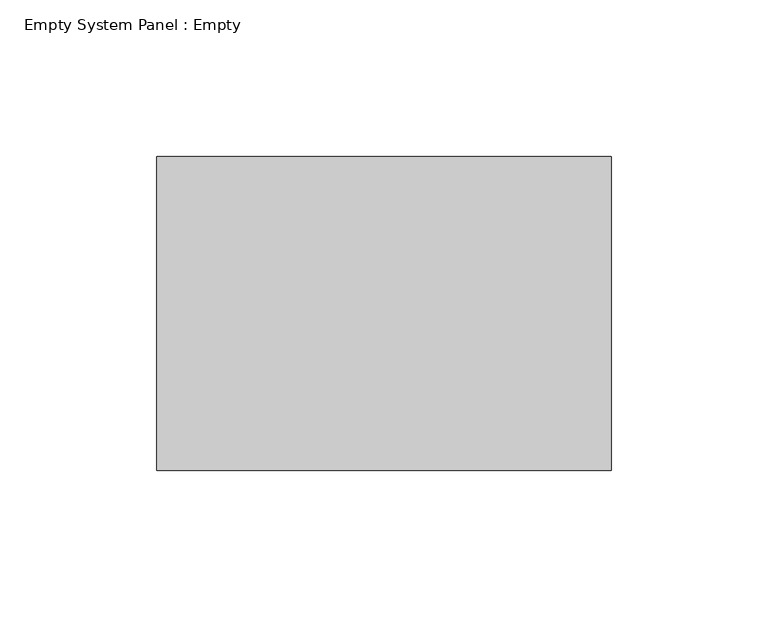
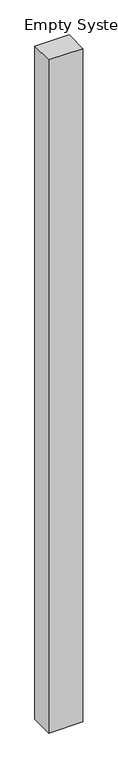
"""IFC4 building model written with IfcOpenShell, lengths in millimetres: plate geometry, Empty System Panel : Empty."""

from ifc_helpers import new_model, si_unit, origin, origin_with_axes, place, context, project, spatial, polyline, outline, extrude, source, transform, mapped, element, save


def empty_system_panel_empty_81d7e91e(model_context):
    return source(origin(), model_context, "Body", "SweptSolid", [
        extrude(outline(polyline([(72.3877204, 50.0), (-72.3877204, 50.0), (-72.3877204, 150.0), (72.3877204, 150.0), (72.3877204, 50.0)])), origin_with_axes(), (0.0, 0.0, 1.0), 3000.0),
    ])


if __name__ == "__main__":
    model = new_model("IFC4")
    model_context = context("Model", 3, world=origin())
    ifc_project = project(units=[si_unit("LENGTHUNIT", "METRE", prefix="MILLI")], contexts=[model_context])
    site = spatial("IfcSite", under=ifc_project)
    building = spatial("IfcBuilding", under=site)
    placement = place(None, origin())
    empty_system_panel_empty_shape = empty_system_panel_empty_81d7e91e(model_context)
    element("IfcPlate", 1, ObjectType="Empty System Panel : Empty", at=placement, inside=building, context=model_context, shape_type="MappedRepresentation", body=[
        mapped(empty_system_panel_empty_shape, transform((0.0, 0.0, 0.0), x_axis=(1.0, 0.0, 0.0), y_axis=(0.0, 1.0, 0.0), z_axis=(0.0, 0.0, 1.0))),
    ])
    save(model, "model.ifc")
